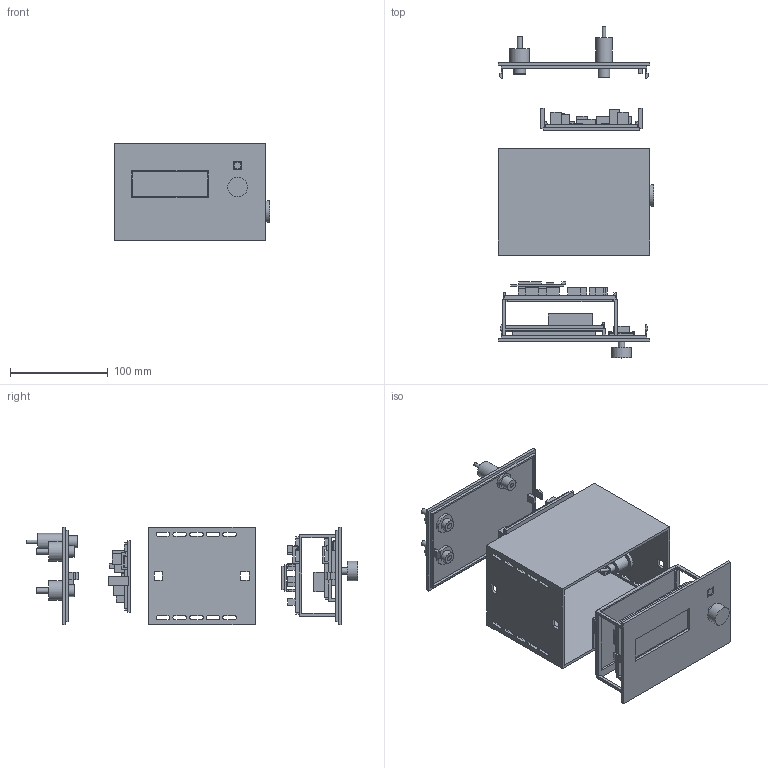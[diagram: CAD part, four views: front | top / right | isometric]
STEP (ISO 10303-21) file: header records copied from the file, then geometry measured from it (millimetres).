
FILE_DESCRIPTION(('Open CASCADE Model'),'2;1');
FILE_NAME('Open CASCADE Shape Model','2026-11-06T18:44:25',('Author'),( 'Open CASCADE'),'Open CASCADE STEP processor 7.8','Open CASCADE 7.8' ,'Unknown');
FILE_SCHEMA(('AUTOMOTIVE_DESIGN { 1 0 10303 214 1 1 1 1 }'));
Length unit declared in the file: millimetre
Products named in the file (103): Exploded_fit_study_v09; 01_Shell_open_front_and_rear; 02_Removable_front_LCD_A; 03_B_removable_carrier; 04_Rear_panel_with_latches; 05_Translucent_optical_insert; 06_BH1750_removable_carrier; BH1750_MODULE_REFERENCE; BH1750_SENSOR_PACKAGE; PCB_A; A_C1_ENVELOPE; A_C2_ENVELOPE; A_C3_ENVELOPE; A_D1_ENVELOPE; A_D2_ENVELOPE; A_J1_ENVELOPE; A_J2_ENVELOPE; A_J3_ENVELOPE; A_J4_ENVELOPE; A_J5_ENVELOPE; A_J6_ENVELOPE; A_J7_ENVELOPE; A_JP1_ENVELOPE; A_R1_ENVELOPE; A_R2_ENVELOPE; A_R3_ENVELOPE; A_R4_ENVELOPE; A_R5_ENVELOPE; A_R6_ENVELOPE; A_R7_ENVELOPE; A_U2_ENVELOPE; PCB_B; B_C1_ENVELOPE; B_C10_ENVELOPE; B_C2_ENVELOPE; B_C3_ENVELOPE; B_C4_ENVELOPE; B_C5_ENVELOPE; B_C6_ENVELOPE; B_C7_ENVELOPE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
Assembly tree (102 placements, depth 2):
  Exploded_fit_study_v09
    01_Shell_open_front_and_rear
    02_Removable_front_LCD_A
    03_B_removable_carrier
    04_Rear_panel_with_latches
    05_Translucent_optical_insert
    06_BH1750_removable_carrier
    BH1750_MODULE_REFERENCE
    BH1750_SENSOR_PACKAGE
    PCB_A
    A_C1_ENVELOPE
    A_C2_ENVELOPE
    A_C3_ENVELOPE
    A_D1_ENVELOPE
    A_D2_ENVELOPE
    A_J1_ENVELOPE
    A_J2_ENVELOPE
    A_J3_ENVELOPE
    A_J4_ENVELOPE
    A_J5_ENVELOPE
    A_J6_ENVELOPE
    A_J7_ENVELOPE
    A_JP1_ENVELOPE
    A_R1_ENVELOPE
    A_R2_ENVELOPE
    A_R3_ENVELOPE
    A_R4_ENVELOPE
    A_R5_ENVELOPE
    A_R6_ENVELOPE
    A_R7_ENVELOPE
    A_U2_ENVELOPE
    PCB_B
    B_C1_ENVELOPE
    B_C10_ENVELOPE
    B_C2_ENVELOPE
    B_C3_ENVELOPE
    B_C4_ENVELOPE
    B_C5_ENVELOPE
    B_C6_ENVELOPE
    B_C7_ENVELOPE
    B_C8_ENVELOPE
    B_C9_ENVELOPE
    B_D2_ENVELOPE
    B_D3_ENVELOPE
    B_D4_ENVELOPE
    B_D5_ENVELOPE
    B_D6_ENVELOPE
    B_D7_ENVELOPE
    B_D8_ENVELOPE
    B_D9_ENVELOPE
    B_F1_ENVELOPE
    B_F2_ENVELOPE
    B_J1_ENVELOPE
    B_J2_ENVELOPE
    B_J3_ENVELOPE
    B_J4_ENVELOPE
    B_J6_ENVELOPE
    B_J7_ENVELOPE
    B_L1_ENVELOPE
    B_Q1_ENVELOPE
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Bounding box: 159 x 339 x 100 mm (x, y, z)
Volume: 421961.4 mm3; surface area: 318549.8 mm2
Topology: 102 solids, 102 shells, 1168 faces, 2780 edges, 1850 vertices
Faces by surface type: plane 1095, cylinder 73
Full cylindrical faces by diameter (mm): 3 x3, 3.5 x1, 4.3 x1, 5.5 x2, 6.3 x2, 6.4 x1, 7.2 x1, 8 x1, 12 x6, 12.4 x1, 12.5 x2, 15 x2, 16 x1, 17 x2, 20 x5, 22 x2
Entity records: 71992 total; most frequent: CARTESIAN_POINT 11513, DIRECTION 11026, LINE 8032, VECTOR 8032, ORIENTED_EDGE 5560, PCURVE 5560, DEFINITIONAL_REPRESENTATION 5560, EDGE_CURVE 2780
